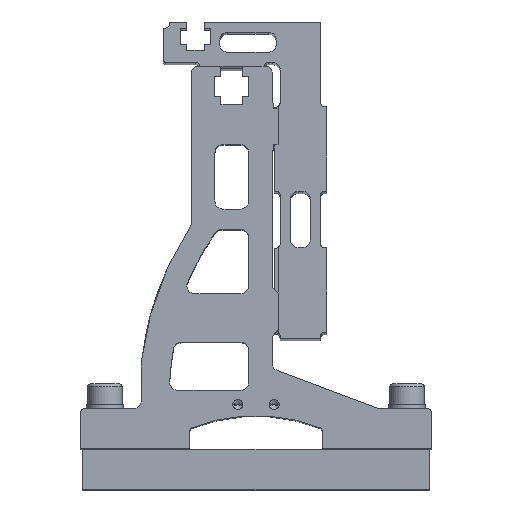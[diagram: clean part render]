
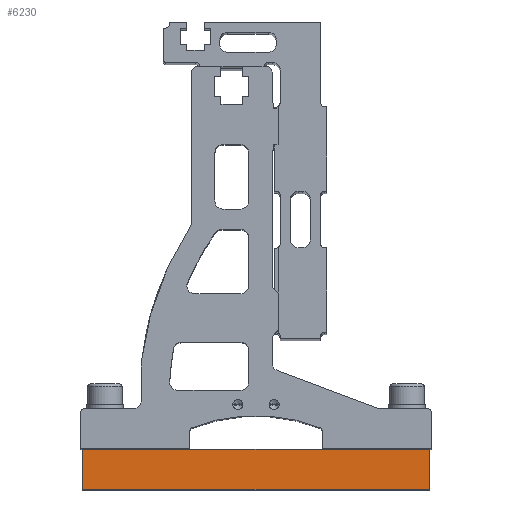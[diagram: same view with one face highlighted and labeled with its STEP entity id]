
A CAD part, top view. The second image highlights one B-rep face of the part: STEP entity #6230.
In plain terms, the highlighted planar face has unit normal (0, 0, 1).
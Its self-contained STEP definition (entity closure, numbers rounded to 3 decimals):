
#682 = EDGE_CURVE ( 'NONE', #9797, #4340, #3201, .T. ) ;
#792 = CARTESIAN_POINT ( 'NONE',  ( 16.634, 0.5, 74. ) ) ;
#1092 = DIRECTION ( 'NONE',  ( 0., 1., 0. ) ) ;
#1162 = DIRECTION ( 'NONE',  ( 1., 0., 0. ) ) ;
#1168 = CARTESIAN_POINT ( 'NONE',  ( -43., 0.5, 74. ) ) ;
#1617 = CARTESIAN_POINT ( 'NONE',  ( -43., -9.5, 74. ) ) ;
#1794 = ORIENTED_EDGE ( 'NONE', *, *, #13222, .T. ) ;
#1853 = ORIENTED_EDGE ( 'NONE', *, *, #5422, .F. ) ;
#1881 = DIRECTION ( 'NONE',  ( 1., 0., 0. ) ) ;
#2641 = CARTESIAN_POINT ( 'NONE',  ( -43., -9.5, 74. ) ) ;
#2799 = ORIENTED_EDGE ( 'NONE', *, *, #6349, .F. ) ;
#2807 = DIRECTION ( 'NONE',  ( 0., -1., 0. ) ) ;
#2898 = VERTEX_POINT ( 'NONE', #5522 ) ;
#3201 = LINE ( 'NONE', #11317, #3712 ) ;
#3272 = VECTOR ( 'NONE', #9481, 1000. ) ;
#3284 = VECTOR ( 'NONE', #1881, 1000. ) ;
#3603 = ORIENTED_EDGE ( 'NONE', *, *, #5407, .T. ) ;
#3712 = VECTOR ( 'NONE', #12325, 1000. ) ;
#3955 = CARTESIAN_POINT ( 'NONE',  ( 43., 0.5, 74. ) ) ;
#4340 = VERTEX_POINT ( 'NONE', #792 ) ;
#4788 = CARTESIAN_POINT ( 'NONE',  ( -43., 0.5, 74. ) ) ;
#5363 = CARTESIAN_POINT ( 'NONE',  ( -43., 0.5, 74. ) ) ;
#5407 = EDGE_CURVE ( 'NONE', #11661, #2898, #5940, .T. ) ;
#5422 = EDGE_CURVE ( 'NONE', #4340, #12371, #9903, .T. ) ;
#5507 = LINE ( 'NONE', #5363, #3272 ) ;
#5522 = CARTESIAN_POINT ( 'NONE',  ( 43., -9.5, 74. ) ) ;
#5596 = EDGE_CURVE ( 'NONE', #12371, #2898, #10773, .T. ) ;
#5940 = LINE ( 'NONE', #1617, #12140 ) ;
#5964 = CARTESIAN_POINT ( 'NONE',  ( -43., 0.5, 74. ) ) ;
#6110 = DIRECTION ( 'NONE',  ( 0., 0., -1. ) ) ;
#6230 = ADVANCED_FACE ( 'NONE', ( #8064 ), #6236, .F. ) ;
#6236 = PLANE ( 'NONE',  #11138 ) ;
#6349 = EDGE_CURVE ( 'NONE', #12471, #9797, #10403, .T. ) ;
#6414 = VECTOR ( 'NONE', #1162, 1000. ) ;
#6971 = VECTOR ( 'NONE', #2807, 1000. ) ;
#7386 = ORIENTED_EDGE ( 'NONE', *, *, #682, .F. ) ;
#7447 = CARTESIAN_POINT ( 'NONE',  ( -43., 0.5, 74. ) ) ;
#7817 = CARTESIAN_POINT ( 'NONE',  ( -16.634, 0.5, 74. ) ) ;
#8064 = FACE_OUTER_BOUND ( 'NONE', #12393, .T. ) ;
#9481 = DIRECTION ( 'NONE',  ( 0., -1., 0. ) ) ;
#9797 = VERTEX_POINT ( 'NONE', #7817 ) ;
#9903 = LINE ( 'NONE', #4788, #3284 ) ;
#10403 = LINE ( 'NONE', #7447, #6414 ) ;
#10773 = LINE ( 'NONE', #12806, #6971 ) ;
#11138 = AXIS2_PLACEMENT_3D ( 'NONE', #5964, #6110, #1092 ) ;
#11317 = CARTESIAN_POINT ( 'NONE',  ( -43., 0.5, 74. ) ) ;
#11661 = VERTEX_POINT ( 'NONE', #2641 ) ;
#12079 = DIRECTION ( 'NONE',  ( 1., 0., 0. ) ) ;
#12140 = VECTOR ( 'NONE', #12079, 1000. ) ;
#12325 = DIRECTION ( 'NONE',  ( 1., 0., 0. ) ) ;
#12371 = VERTEX_POINT ( 'NONE', #3955 ) ;
#12393 = EDGE_LOOP ( 'NONE', ( #3603, #13105, #1853, #7386, #2799, #1794 ) ) ;
#12471 = VERTEX_POINT ( 'NONE', #1168 ) ;
#12806 = CARTESIAN_POINT ( 'NONE',  ( 43., 0.5, 74. ) ) ;
#13105 = ORIENTED_EDGE ( 'NONE', *, *, #5596, .F. ) ;
#13222 = EDGE_CURVE ( 'NONE', #12471, #11661, #5507, .T. ) ;
